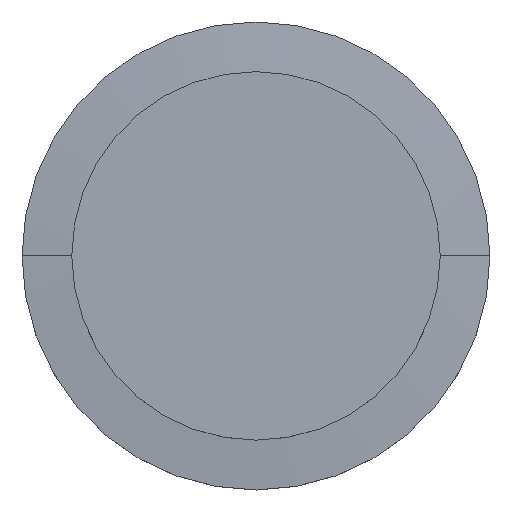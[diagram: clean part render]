
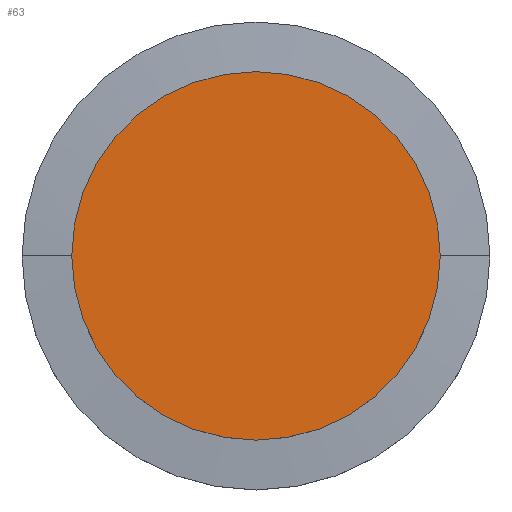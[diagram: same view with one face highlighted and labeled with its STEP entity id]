
A CAD part, top view. The second image highlights one B-rep face of the part: STEP entity #63.
In plain terms, the highlighted planar face has unit normal (0, 0, 1).
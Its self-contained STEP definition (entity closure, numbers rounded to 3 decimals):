
#63=ADVANCED_FACE('',(#83),#84,.T.);
#83=FACE_OUTER_BOUND('',#103,.T.);
#84=PLANE('',#104);
#103=EDGE_LOOP('',(#162,#163));
#104=AXIS2_PLACEMENT_3D('',#164,#165,#166);
#162=ORIENTED_EDGE('',*,*,#180,.T.);
#163=ORIENTED_EDGE('',*,*,#181,.T.);
#164=CARTESIAN_POINT('',(0.0,0.0,7.5));
#165=DIRECTION('',(0.0,0.0,1.0));
#166=DIRECTION('',(1.0,0.0,0.0));
#180=EDGE_CURVE('',#200,#204,#206,.T.);
#181=EDGE_CURVE('',#204,#200,#207,.T.);
#200=VERTEX_POINT('',#228);
#204=VERTEX_POINT('',#233);
#206=CIRCLE('',#236,10.0);
#207=CIRCLE('',#237,10.0);
#228=CARTESIAN_POINT('',(10.0,0.0,7.5));
#233=CARTESIAN_POINT('',(-10.0,0.,7.5));
#236=AXIS2_PLACEMENT_3D('',#270,#271,#272);
#237=AXIS2_PLACEMENT_3D('',#273,#274,#275);
#270=CARTESIAN_POINT('',(0.0,0.0,7.5));
#271=DIRECTION('',(0.0,0.0,1.0));
#272=DIRECTION('',(1.0,0.0,0.0));
#273=CARTESIAN_POINT('',(0.0,0.0,7.5));
#274=DIRECTION('',(0.0,0.0,1.0));
#275=DIRECTION('',(1.0,0.0,0.0));
